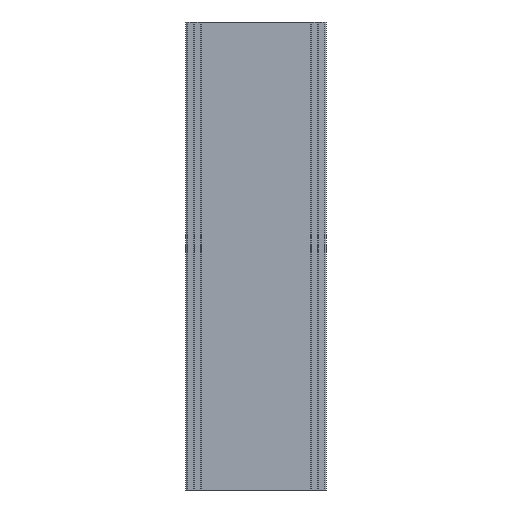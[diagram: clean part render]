
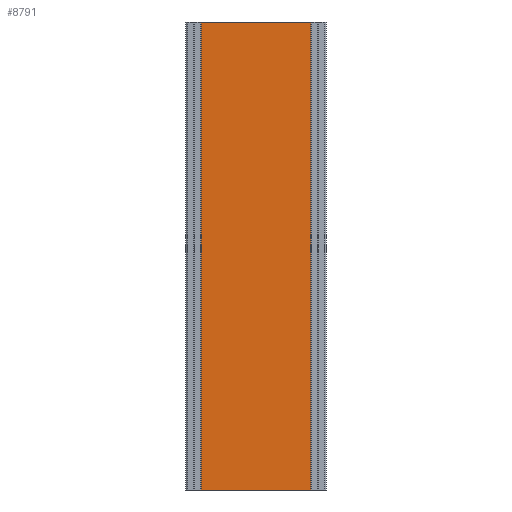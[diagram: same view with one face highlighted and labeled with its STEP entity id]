
A CAD part, left-side view. The second image highlights one B-rep face of the part: STEP entity #8791.
In plain terms, the highlighted planar face has unit normal (-1, 0, 0).
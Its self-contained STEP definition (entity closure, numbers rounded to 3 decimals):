
#383 = CARTESIAN_POINT ( 'NONE',  ( -50., 80.15, -600. ) ) ;
#519 = DIRECTION ( 'NONE',  ( 0., 0., 1. ) ) ;
#609 = LINE ( 'NONE', #383, #7705 ) ;
#948 = VERTEX_POINT ( 'NONE', #2008 ) ;
#1303 = VERTEX_POINT ( 'NONE', #7643 ) ;
#1385 = CARTESIAN_POINT ( 'NONE',  ( -50., 0., -600. ) ) ;
#1453 = LINE ( 'NONE', #10552, #4596 ) ;
#1456 = ORIENTED_EDGE ( 'NONE', *, *, #10414, .T. ) ;
#1548 = VECTOR ( 'NONE', #3376, 1000. ) ;
#2008 = CARTESIAN_POINT ( 'NONE',  ( -50., 80.15, 0. ) ) ;
#2321 = CARTESIAN_POINT ( 'NONE',  ( -50., -59.65, 0. ) ) ;
#2505 = EDGE_LOOP ( 'NONE', ( #4931, #9631, #1456, #5495 ) ) ;
#2868 = DIRECTION ( 'NONE',  ( 0., -1., 0. ) ) ;
#3376 = DIRECTION ( 'NONE',  ( 0., -1., 0. ) ) ;
#3834 = LINE ( 'NONE', #8901, #4767 ) ;
#4252 = CARTESIAN_POINT ( 'NONE',  ( -50., 0., -600. ) ) ;
#4356 = FACE_OUTER_BOUND ( 'NONE', #2505, .T. ) ;
#4596 = VECTOR ( 'NONE', #2868, 1000. ) ;
#4767 = VECTOR ( 'NONE', #8144, 1000. ) ;
#4931 = ORIENTED_EDGE ( 'NONE', *, *, #9356, .F. ) ;
#5495 = ORIENTED_EDGE ( 'NONE', *, *, #7892, .T. ) ;
#6349 = DIRECTION ( 'NONE',  ( 0., 0., 1. ) ) ;
#6419 = LINE ( 'NONE', #4252, #1548 ) ;
#6533 = DIRECTION ( 'NONE',  ( -1., 0., 0. ) ) ;
#6732 = EDGE_CURVE ( 'NONE', #1303, #948, #609, .T. ) ;
#7304 = VERTEX_POINT ( 'NONE', #9639 ) ;
#7356 = VERTEX_POINT ( 'NONE', #2321 ) ;
#7643 = CARTESIAN_POINT ( 'NONE',  ( -50., 80.15, -600. ) ) ;
#7705 = VECTOR ( 'NONE', #6349, 1000. ) ;
#7892 = EDGE_CURVE ( 'NONE', #7304, #7356, #3834, .T. ) ;
#8113 = PLANE ( 'NONE',  #9066 ) ;
#8144 = DIRECTION ( 'NONE',  ( 0., 0., 1. ) ) ;
#8791 = ADVANCED_FACE ( 'NONE', ( #4356 ), #8113, .T. ) ;
#8901 = CARTESIAN_POINT ( 'NONE',  ( -50., -59.65, -600. ) ) ;
#9066 = AXIS2_PLACEMENT_3D ( 'NONE', #1385, #6533, #519 ) ;
#9356 = EDGE_CURVE ( 'NONE', #948, #7356, #1453, .T. ) ;
#9631 = ORIENTED_EDGE ( 'NONE', *, *, #6732, .F. ) ;
#9639 = CARTESIAN_POINT ( 'NONE',  ( -50., -59.65, -600. ) ) ;
#10414 = EDGE_CURVE ( 'NONE', #1303, #7304, #6419, .T. ) ;
#10552 = CARTESIAN_POINT ( 'NONE',  ( -50., 0., 0. ) ) ;
